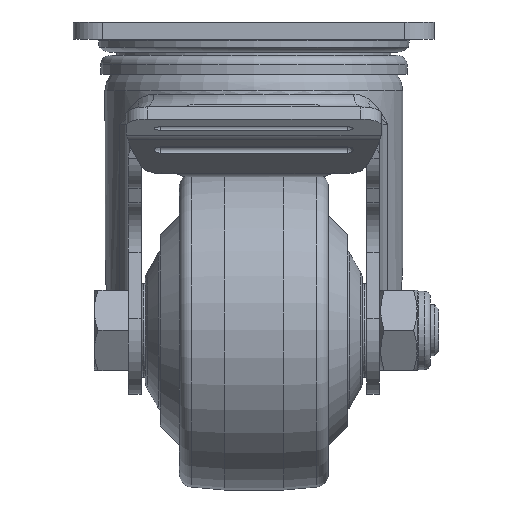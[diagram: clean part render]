
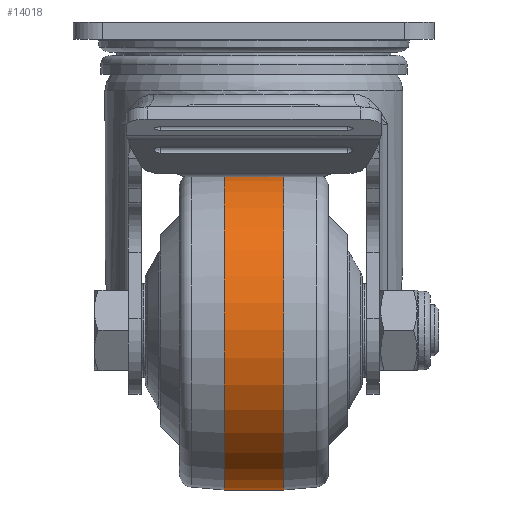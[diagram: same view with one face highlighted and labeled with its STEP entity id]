
A CAD part, front view. The second image highlights one B-rep face of the part: STEP entity #14018.
In plain terms, the highlighted cylindrical face has radius 37.5 mm (diameter 75 mm), a full revolution.
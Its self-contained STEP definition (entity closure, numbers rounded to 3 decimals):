
#3623=CYLINDRICAL_SURFACE('',#14855,37.5);
#4222=FACE_BOUND('',#5190,.T.);
#4374=FACE_OUTER_BOUND('',#5189,.T.);
#5189=EDGE_LOOP('',(#9953));
#5190=EDGE_LOOP('',(#9954));
#6147=CIRCLE('',#14854,37.5);
#6148=CIRCLE('',#14856,37.5);
#6579=VERTEX_POINT('',#19482);
#6580=VERTEX_POINT('',#19485);
#7930=EDGE_CURVE('',#6579,#6579,#6147,.T.);
#7931=EDGE_CURVE('',#6580,#6580,#6148,.T.);
#9953=ORIENTED_EDGE('',*,*,#7930,.T.);
#9954=ORIENTED_EDGE('',*,*,#7931,.F.);
#14018=ADVANCED_FACE('',(#4374,#4222),#3623,.T.);
#14854=AXIS2_PLACEMENT_3D('',#19483,#16061,#16062);
#14855=AXIS2_PLACEMENT_3D('',#19484,#16063,#16064);
#14856=AXIS2_PLACEMENT_3D('',#19486,#16065,#16066);
#16061=DIRECTION('center_axis',(-1.,0.,0.));
#16062=DIRECTION('ref_axis',(0.,0.,1.));
#16063=DIRECTION('center_axis',(-1.,0.,0.));
#16064=DIRECTION('ref_axis',(0.,0.,1.));
#16065=DIRECTION('center_axis',(-1.,0.,0.));
#16066=DIRECTION('ref_axis',(0.,0.,1.));
#19482=CARTESIAN_POINT('',(7.,-38.,-35.));
#19483=CARTESIAN_POINT('Origin',(7.,-38.,-72.5));
#19484=CARTESIAN_POINT('Origin',(0.,-38.,
-72.5));
#19485=CARTESIAN_POINT('',(-7.,-38.,-35.));
#19486=CARTESIAN_POINT('Origin',(-7.,-38.,-72.5));
